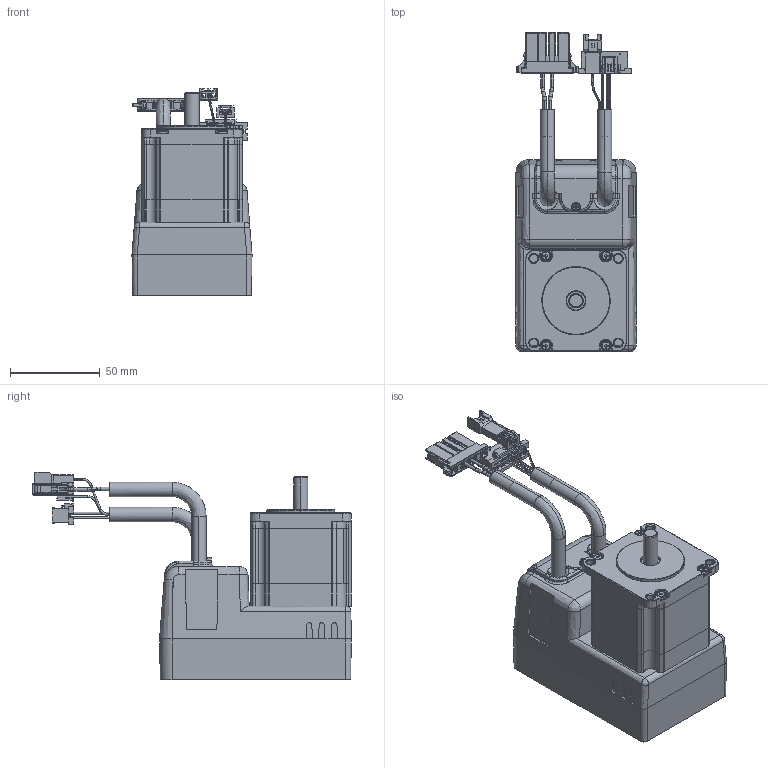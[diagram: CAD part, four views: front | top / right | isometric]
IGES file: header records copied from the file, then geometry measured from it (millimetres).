
Start section: SolidWorks IGES file using analytic representation for surfaces
Global section: file name: C:\Documents and Settings\3DCAD\デスクトップ\liujie\CM2\ホームページー用向け\CM2-□-56B10A.IGS; native system: SolidWorks 2010; preprocessor: SolidWorks 2010; author: 3DCAD; date: 100827.160658; units: millimetre
Bounding box: 67 x 177.8 x 115.82 mm (x, y, z)
Surface area: 72915.8 mm2 (no closed solid volume)
Topology: 0 solids, 0 shells, 1665 faces, 14308 edges, 14300 vertices
Faces by surface type: bspline 1189, revolution 476
